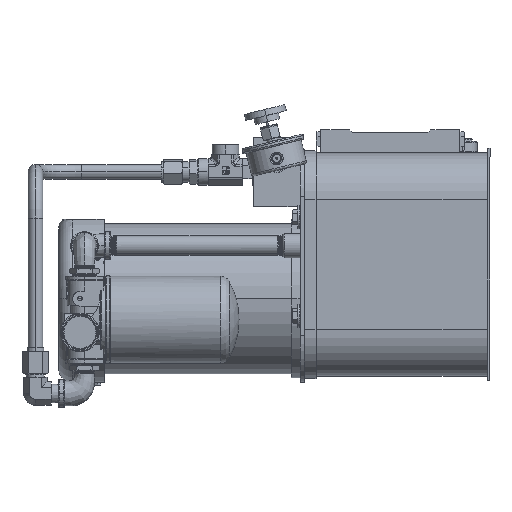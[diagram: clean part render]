
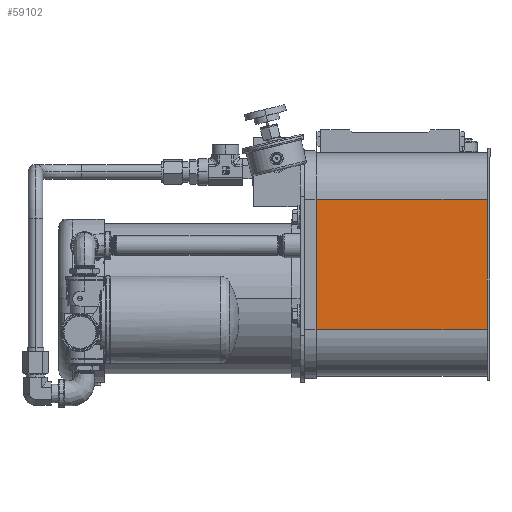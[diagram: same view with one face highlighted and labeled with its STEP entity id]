
A CAD part, top view. The second image highlights one B-rep face of the part: STEP entity #59102.
In plain terms, the highlighted planar face has unit normal (0, 0, 1).
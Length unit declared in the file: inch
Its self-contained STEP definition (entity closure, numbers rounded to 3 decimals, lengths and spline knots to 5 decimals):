
#1719 = DIRECTION ( 'NONE',  ( 0., 0., 1. ) ) ;
#2460 = EDGE_CURVE ( 'NONE', #96153, #46727, #51367, .T. ) ;
#7035 = EDGE_CURVE ( 'NONE', #96005, #96153, #132733, .T. ) ;
#16971 = DIRECTION ( 'NONE',  ( 0., 1., 0. ) ) ;
#17166 = DIRECTION ( 'NONE',  ( 0., 1., 0. ) ) ;
#17794 = CARTESIAN_POINT ( 'NONE',  ( -0.19368, -0.17576, 20.8296 ) ) ;
#22791 = VECTOR ( 'NONE', #17166, 39.37008 ) ;
#24868 = VECTOR ( 'NONE', #158158, 39.37008 ) ;
#25443 = CARTESIAN_POINT ( 'NONE',  ( 7.68672, -0.17576, 20.8296 ) ) ;
#29659 = PLANE ( 'NONE',  #46429 ) ;
#31616 = CARTESIAN_POINT ( 'NONE',  ( -0.06868, -0.17576, 20.8296 ) ) ;
#38277 = CARTESIAN_POINT ( 'NONE',  ( -0.06868, 5.44924, 20.8296 ) ) ;
#42699 = VECTOR ( 'NONE', #121704, 39.37008 ) ;
#46429 = AXIS2_PLACEMENT_3D ( 'NONE', #17794, #1719, #16971 ) ;
#46727 = VERTEX_POINT ( 'NONE', #141295 ) ;
#49854 = EDGE_CURVE ( 'NONE', #96005, #157805, #111526, .T. ) ;
#51367 = LINE ( 'NONE', #63953, #103220 ) ;
#51686 = ORIENTED_EDGE ( 'NONE', *, *, #2460, .F. ) ;
#59102 = ADVANCED_FACE ( 'NONE', ( #130062 ), #29659, .T. ) ;
#63953 = CARTESIAN_POINT ( 'NONE',  ( -0.19368, 5.44924, 20.8296 ) ) ;
#68980 = EDGE_CURVE ( 'NONE', #157805, #46727, #93159, .T. ) ;
#70252 = CARTESIAN_POINT ( 'NONE',  ( -0.06868, -0.17576, 20.8296 ) ) ;
#87970 = ORIENTED_EDGE ( 'NONE', *, *, #7035, .F. ) ;
#93159 = LINE ( 'NONE', #131106, #24868 ) ;
#96005 = VERTEX_POINT ( 'NONE', #31616 ) ;
#96153 = VERTEX_POINT ( 'NONE', #38277 ) ;
#98870 = CARTESIAN_POINT ( 'NONE',  ( -0.19368, -0.17576, 20.8296 ) ) ;
#103220 = VECTOR ( 'NONE', #111475, 39.37008 ) ;
#110459 = ORIENTED_EDGE ( 'NONE', *, *, #68980, .T. ) ;
#111475 = DIRECTION ( 'NONE',  ( 1., 0., 0. ) ) ;
#111526 = LINE ( 'NONE', #98870, #42699 ) ;
#121704 = DIRECTION ( 'NONE',  ( 1., 0., 0. ) ) ;
#130062 = FACE_OUTER_BOUND ( 'NONE', #147670, .T. ) ;
#131106 = CARTESIAN_POINT ( 'NONE',  ( 7.68672, 7.63674, 20.8296 ) ) ;
#132733 = LINE ( 'NONE', #70252, #22791 ) ;
#141295 = CARTESIAN_POINT ( 'NONE',  ( 7.68672, 5.44924, 20.8296 ) ) ;
#147670 = EDGE_LOOP ( 'NONE', ( #51686, #87970, #155904, #110459 ) ) ;
#155904 = ORIENTED_EDGE ( 'NONE', *, *, #49854, .T. ) ;
#157805 = VERTEX_POINT ( 'NONE', #25443 ) ;
#158158 = DIRECTION ( 'NONE',  ( 0., 1., 0. ) ) ;
